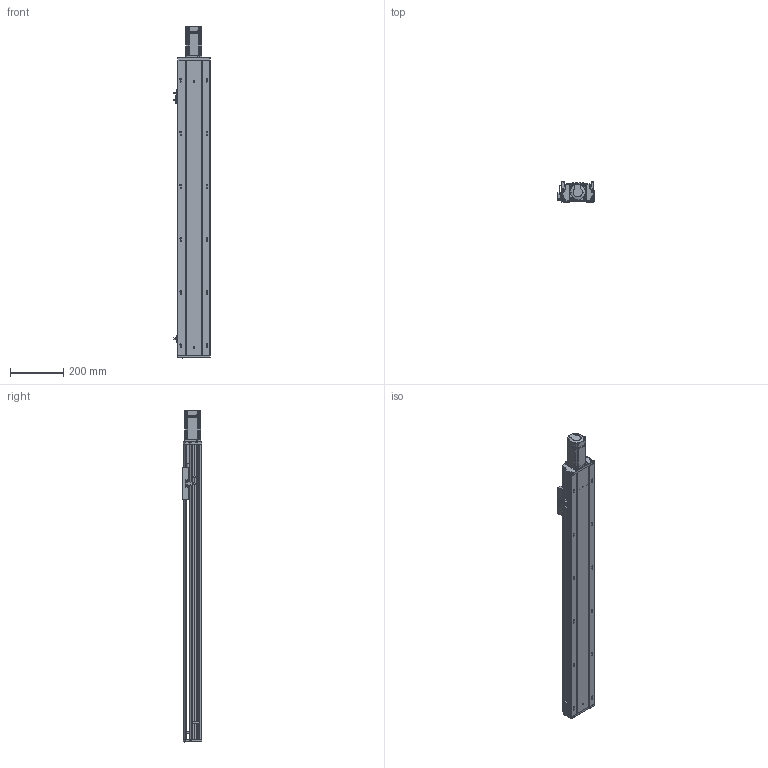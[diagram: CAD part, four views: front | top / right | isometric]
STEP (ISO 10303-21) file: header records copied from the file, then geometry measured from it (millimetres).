
FILE_DESCRIPTION (( 'STEP AP203' ), '1' );
FILE_NAME ('RY120Q-L1610-500-MK.SLDASM_0850.step', '2021-05-19T01:45:24', ( '盈信电脑' ), ( '东莞市道滘镇水果街19号' ), 'SwSTEP 2.0', 'SolidWorks 2016', '' );
FILE_SCHEMA (( 'CONFIG_CONTROL_DESIGN' ));
Length unit declared in the file: millimetre
Products named in the file (14): RY120QGB-1.8; RY120萇儂釱FK12; RY120-500-MK倰第菁釱_0850; RY120铝滑块16丝杆（FK12）; RY120綴裔啣; 覜茼ん672; 滅袉蝶18-10; 滅袉蝶18-15; 鞠褒坶踡蹟譫BK12 ; 侂狟400W侜督萇儂; RY120-500-MK倰第奻裔啣_0850; 15; RY120Q-L1610-500-MK.SLDASM_0850; RY120外置感应片(140共用）
Assembly tree (16 placements, depth 3):
  RY120Q-L1610-500-MK.SLDASM_0850
    RY120-500-MK倰第菁釱_0850
    RY120-500-MK倰第奻裔啣_0850
    侂狟400W侜督萇儂
      15
    鞠褒坶踡蹟譫BK12 
    RY120綴裔啣
    覜茼ん672  x3
    滅袉蝶18-10
    滅袉蝶18-15  x2
    RY120外置感应片(140共用）
    RY120QGB-1.8
    RY120铝滑块16丝杆（FK12）
    RY120萇儂釱FK12
Bounding box: 135.7 x 74 x 1248.5 mm (x, y, z)
Volume: 3297571.4 mm3; surface area: 1161385.9 mm2
Topology: 16 solids, 16 shells, 2256 faces, 6191 edges, 3942 vertices
Faces by surface type: plane 1019, cylinder 883, cone 253, bspline 101
Entity records: 74117 total; most frequent: CARTESIAN_POINT 20705, ORIENTED_EDGE 11086, DIRECTION 10467, EDGE_CURVE 5543, AXIS2_PLACEMENT_3D 3616, VERTEX_POINT 3610, VECTOR 3235, LINE 3235
